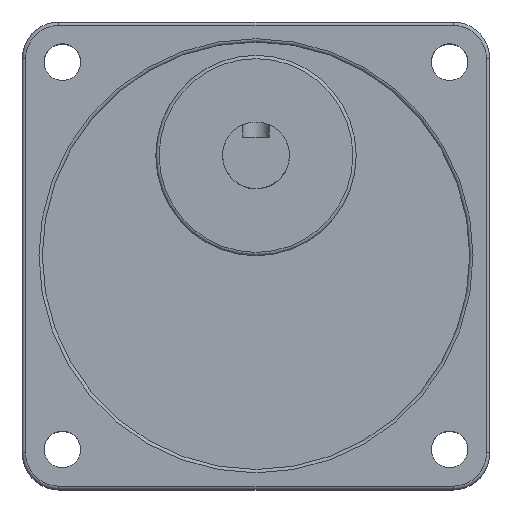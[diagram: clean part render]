
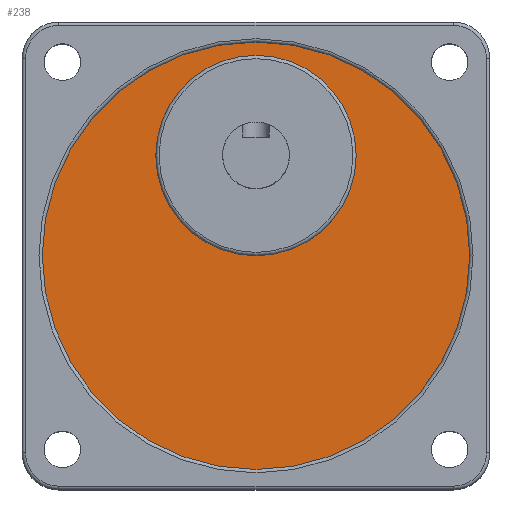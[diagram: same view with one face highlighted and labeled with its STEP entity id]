
A CAD part, top view. The second image highlights one B-rep face of the part: STEP entity #238.
In plain terms, the highlighted planar face has unit normal (0, 0, 1).
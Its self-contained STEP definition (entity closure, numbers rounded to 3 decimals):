
#73=CARTESIAN_POINT('',(32.0,0.,41.5));
#74=VERTEX_POINT('',#73);
#75=CARTESIAN_POINT('',(0.0,0.0,41.5));
#76=DIRECTION('',(0.0,0.0,1.0));
#77=DIRECTION('',(-1.0,0.0,0.0));
#78=AXIS2_PLACEMENT_3D('',#75,#76,#77);
#79=CIRCLE('',#78,32.0);
#80=EDGE_CURVE('',#74,#74,#79,.T.);
#219=CARTESIAN_POINT('',(0.0,0.0,41.5));
#220=DIRECTION('',(0.0,0.0,-1.0));
#221=DIRECTION('',(-1.0,0.0,0.0));
#222=AXIS2_PLACEMENT_3D('',#219,#220,#221);
#223=PLANE('',#222);
#224=ORIENTED_EDGE('',*,*,#80,.T.);
#225=EDGE_LOOP('',(#224));
#226=FACE_OUTER_BOUND('',#225,.T.);
#227=CARTESIAN_POINT('',(15.0,15.,41.5));
#228=VERTEX_POINT('',#227);
#229=CARTESIAN_POINT('',(0.0,15.0,41.5));
#230=DIRECTION('',(0.0,0.0,1.0));
#231=DIRECTION('',(-1.0,0.0,0.0));
#232=AXIS2_PLACEMENT_3D('',#229,#230,#231);
#233=CIRCLE('',#232,15.0);
#234=EDGE_CURVE('',#228,#228,#233,.T.);
#235=ORIENTED_EDGE('',*,*,#234,.F.);
#236=EDGE_LOOP('',(#235));
#237=FACE_BOUND('',#236,.T.);
#238=ADVANCED_FACE('',(#226,#237),#223,.F.);
